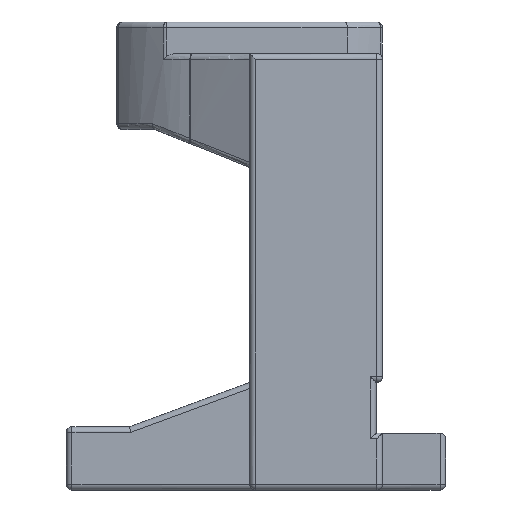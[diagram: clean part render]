
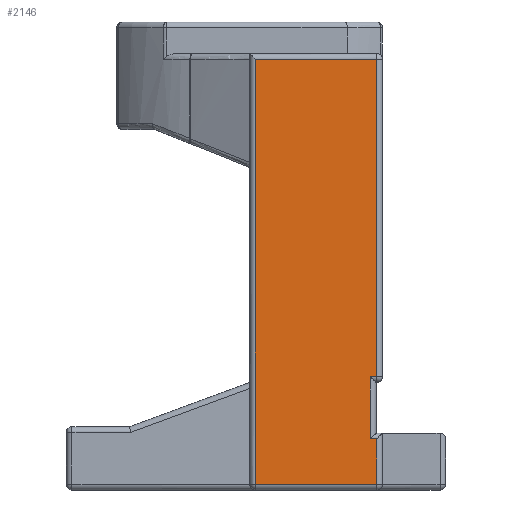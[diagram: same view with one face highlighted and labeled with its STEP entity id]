
A CAD part, left-side view. The second image highlights one B-rep face of the part: STEP entity #2146.
In plain terms, the highlighted planar face has unit normal (-1, 0, 0).
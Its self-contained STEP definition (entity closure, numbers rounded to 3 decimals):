
#6 = ORIENTED_EDGE ( 'NONE', *, *, #6442, .T. ) ;
#146 = DIRECTION ( 'NONE',  ( 0., 0., 1. ) ) ;
#277 = LINE ( 'NONE', #3021, #1972 ) ;
#329 = ORIENTED_EDGE ( 'NONE', *, *, #4448, .T. ) ;
#349 = EDGE_CURVE ( 'NONE', #1224, #1126, #5604, .T. ) ;
#440 = CARTESIAN_POINT ( 'NONE',  ( -32.5, -19.1, 3.1 ) ) ;
#522 = VERTEX_POINT ( 'NONE', #440 ) ;
#540 = VECTOR ( 'NONE', #2414, 1000. ) ;
#589 = VECTOR ( 'NONE', #4192, 1000. ) ;
#599 = EDGE_CURVE ( 'NONE', #3886, #6925, #7213, .T. ) ;
#710 = CARTESIAN_POINT ( 'NONE',  ( -32.5, -20., 63.1 ) ) ;
#851 = CARTESIAN_POINT ( 'NONE',  ( -32.5, 0.1, -5. ) ) ;
#952 = EDGE_CURVE ( 'NONE', #2723, #1734, #1923, .T. ) ;
#981 = VERTEX_POINT ( 'NONE', #3672 ) ;
#1010 = ORIENTED_EDGE ( 'NONE', *, *, #6373, .T. ) ;
#1014 = LINE ( 'NONE', #851, #5245 ) ;
#1016 = VECTOR ( 'NONE', #7016, 1000. ) ;
#1126 = VERTEX_POINT ( 'NONE', #7162 ) ;
#1147 = ORIENTED_EDGE ( 'NONE', *, *, #599, .T. ) ;
#1224 = VERTEX_POINT ( 'NONE', #5819 ) ;
#1429 = DIRECTION ( 'NONE',  ( 0., 0., -1. ) ) ;
#1734 = VERTEX_POINT ( 'NONE', #3965 ) ;
#1856 = DIRECTION ( 'NONE',  ( 0., 0., 1. ) ) ;
#1882 = CARTESIAN_POINT ( 'NONE',  ( -32.5, -18.1, 12.9 ) ) ;
#1923 = LINE ( 'NONE', #710, #589 ) ;
#1959 = CARTESIAN_POINT ( 'NONE',  ( -32.5, -18.1, 12. ) ) ;
#1972 = VECTOR ( 'NONE', #146, 1000. ) ;
#2071 = EDGE_LOOP ( 'NONE', ( #329, #1147, #6, #1010, #2239, #6495, #2615, #3214 ) ) ;
#2146 = ADVANCED_FACE ( 'NONE', ( #6849 ), #3947, .T. ) ;
#2239 = ORIENTED_EDGE ( 'NONE', *, *, #952, .T. ) ;
#2414 = DIRECTION ( 'NONE',  ( 0., 1., 0. ) ) ;
#2516 = CARTESIAN_POINT ( 'NONE',  ( -32.5, -20., 12.9 ) ) ;
#2615 = ORIENTED_EDGE ( 'NONE', *, *, #349, .T. ) ;
#2716 = LINE ( 'NONE', #2516, #7291 ) ;
#2723 = VERTEX_POINT ( 'NONE', #6608 ) ;
#2962 = EDGE_CURVE ( 'NONE', #1126, #522, #277, .T. ) ;
#3021 = CARTESIAN_POINT ( 'NONE',  ( -32.5, -19.1, 4. ) ) ;
#3098 = VECTOR ( 'NONE', #1856, 1000. ) ;
#3214 = ORIENTED_EDGE ( 'NONE', *, *, #2962, .T. ) ;
#3370 = DIRECTION ( 'NONE',  ( -1., 0., 0. ) ) ;
#3672 = CARTESIAN_POINT ( 'NONE',  ( -32.5, -19.1, 12.9 ) ) ;
#3712 = DIRECTION ( 'NONE',  ( 0., 0., 1. ) ) ;
#3886 = VERTEX_POINT ( 'NONE', #4127 ) ;
#3947 = PLANE ( 'NONE',  #7074 ) ;
#3965 = CARTESIAN_POINT ( 'NONE',  ( -32.5, 0.1, 63.1 ) ) ;
#4101 = CARTESIAN_POINT ( 'NONE',  ( -32.5, -20., -4.1 ) ) ;
#4127 = CARTESIAN_POINT ( 'NONE',  ( -32.5, -18.1, 3.1 ) ) ;
#4165 = CARTESIAN_POINT ( 'NONE',  ( -32.5, -19.1, 64. ) ) ;
#4192 = DIRECTION ( 'NONE',  ( 0., 1., 0. ) ) ;
#4448 = EDGE_CURVE ( 'NONE', #522, #3886, #6271, .T. ) ;
#4609 = LINE ( 'NONE', #4165, #3098 ) ;
#5245 = VECTOR ( 'NONE', #1429, 1000. ) ;
#5604 = LINE ( 'NONE', #4101, #1016 ) ;
#5652 = CARTESIAN_POINT ( 'NONE',  ( -32.5, -20., 64. ) ) ;
#5675 = VECTOR ( 'NONE', #3712, 1000. ) ;
#5819 = CARTESIAN_POINT ( 'NONE',  ( -32.5, 0.1, -4.1 ) ) ;
#6004 = EDGE_CURVE ( 'NONE', #1734, #1224, #1014, .T. ) ;
#6271 = LINE ( 'NONE', #6430, #540 ) ;
#6373 = EDGE_CURVE ( 'NONE', #981, #2723, #4609, .T. ) ;
#6430 = CARTESIAN_POINT ( 'NONE',  ( -32.5, -19., 3.1 ) ) ;
#6442 = EDGE_CURVE ( 'NONE', #6925, #981, #2716, .T. ) ;
#6495 = ORIENTED_EDGE ( 'NONE', *, *, #6004, .T. ) ;
#6533 = DIRECTION ( 'NONE',  ( 0., -1., 0. ) ) ;
#6608 = CARTESIAN_POINT ( 'NONE',  ( -32.5, -19.1, 63.1 ) ) ;
#6811 = DIRECTION ( 'NONE',  ( 0., 1., 0. ) ) ;
#6849 = FACE_OUTER_BOUND ( 'NONE', #2071, .T. ) ;
#6925 = VERTEX_POINT ( 'NONE', #1882 ) ;
#7016 = DIRECTION ( 'NONE',  ( 0., -1., 0. ) ) ;
#7074 = AXIS2_PLACEMENT_3D ( 'NONE', #5652, #3370, #6811 ) ;
#7162 = CARTESIAN_POINT ( 'NONE',  ( -32.5, -19.1, -4.1 ) ) ;
#7213 = LINE ( 'NONE', #1959, #5675 ) ;
#7291 = VECTOR ( 'NONE', #6533, 1000. ) ;
